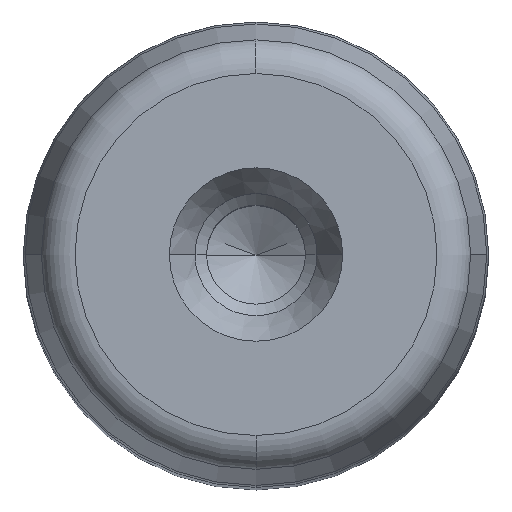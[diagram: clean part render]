
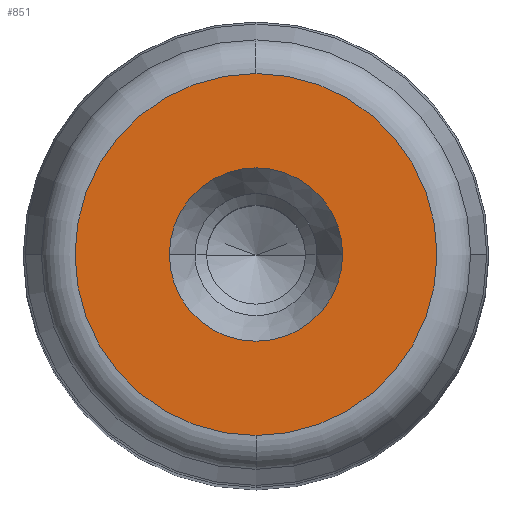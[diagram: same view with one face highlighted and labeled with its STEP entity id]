
A CAD part, top view. The second image highlights one B-rep face of the part: STEP entity #851.
In plain terms, the highlighted planar face has unit normal (0, 0, 1) as drawn and (0, 1, 0) by its records, which use the part's own axes.
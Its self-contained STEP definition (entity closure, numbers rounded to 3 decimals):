
#281=CARTESIAN_POINT('',(7.45,140.0,0.0));
#282=VERTEX_POINT('',#281);
#289=CARTESIAN_POINT('',(-7.45,140.0,0.));
#290=VERTEX_POINT('',#289);
#291=CARTESIAN_POINT('',(0.0,140.0,0.0));
#292=DIRECTION('',(0.0,1.0,0.0));
#293=DIRECTION('',(1.0,0.0,0.0));
#294=AXIS2_PLACEMENT_3D('',#291,#292,#293);
#295=CIRCLE('',#294,7.45);
#296=EDGE_CURVE('',#282,#290,#295,.T.);
#313=CARTESIAN_POINT('',(0.0,140.,15.554));
#314=VERTEX_POINT('',#313);
#324=CARTESIAN_POINT('',(0.,140.,-15.554));
#325=VERTEX_POINT('',#324);
#326=CARTESIAN_POINT('',(0.0,140.,0.0));
#327=DIRECTION('',(0.0,1.0,0.0));
#328=DIRECTION('',(1.0,0.0,0.0));
#329=AXIS2_PLACEMENT_3D('',#326,#327,#328);
#330=CIRCLE('',#329,15.554);
#331=EDGE_CURVE('',#325,#314,#330,.T.);
#812=CARTESIAN_POINT('',(15.554,140.,0.0));
#813=VERTEX_POINT('',#812);
#814=CARTESIAN_POINT('',(0.0,140.,0.0));
#815=DIRECTION('',(0.0,1.0,0.0));
#816=DIRECTION('',(1.0,0.0,0.0));
#817=AXIS2_PLACEMENT_3D('',#814,#815,#816);
#818=CIRCLE('',#817,15.554);
#819=EDGE_CURVE('',#813,#325,#818,.T.);
#821=CARTESIAN_POINT('',(0.0,140.,0.0));
#822=DIRECTION('',(0.0,1.0,0.0));
#823=DIRECTION('',(1.0,0.0,0.0));
#824=AXIS2_PLACEMENT_3D('',#821,#822,#823);
#825=CIRCLE('',#824,15.554);
#826=EDGE_CURVE('',#314,#813,#825,.T.);
#831=CARTESIAN_POINT('',(-17.11,140.0,-17.11));
#832=DIRECTION('',(0.0,1.0,0.0));
#833=DIRECTION('',(0.0,0.0,1.0));
#834=AXIS2_PLACEMENT_3D('',#831,#832,#833);
#835=PLANE('',#834);
#836=ORIENTED_EDGE('',*,*,#819,.T.);
#837=ORIENTED_EDGE('',*,*,#331,.T.);
#838=ORIENTED_EDGE('',*,*,#826,.T.);
#839=EDGE_LOOP('',(#836,#837,#838));
#840=FACE_OUTER_BOUND('',#839,.T.);
#841=ORIENTED_EDGE('',*,*,#296,.F.);
#842=CARTESIAN_POINT('',(0.0,140.0,0.0));
#843=DIRECTION('',(0.0,1.0,0.0));
#844=DIRECTION('',(1.0,0.0,0.0));
#845=AXIS2_PLACEMENT_3D('',#842,#843,#844);
#846=CIRCLE('',#845,7.45);
#847=EDGE_CURVE('',#290,#282,#846,.T.);
#848=ORIENTED_EDGE('',*,*,#847,.F.);
#849=EDGE_LOOP('',(#841,#848));
#850=FACE_BOUND('',#849,.T.);
#851=ADVANCED_FACE('',(#840,#850),#835,.T.);
